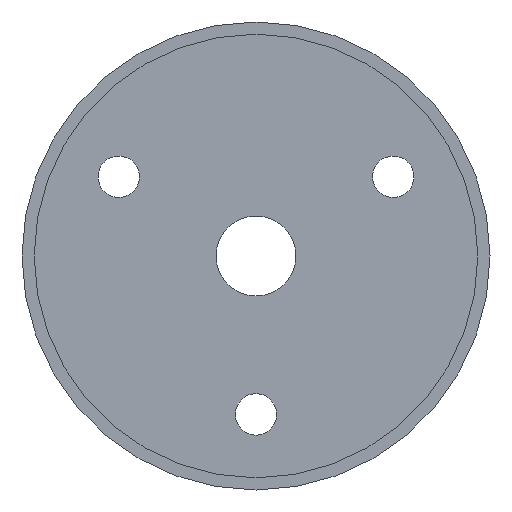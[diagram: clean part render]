
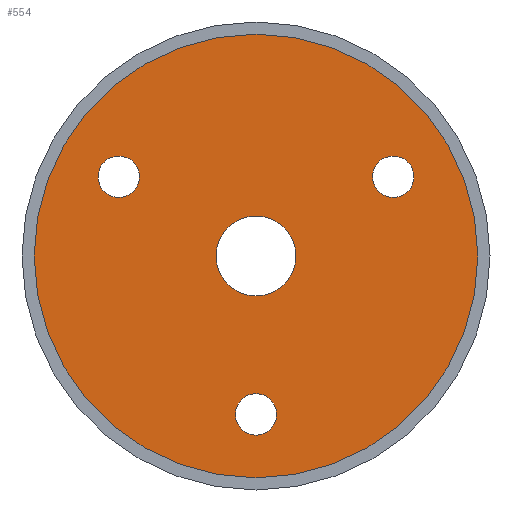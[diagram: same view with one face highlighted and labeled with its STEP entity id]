
A CAD part, left-side view. The second image highlights one B-rep face of the part: STEP entity #554.
In plain terms, the highlighted planar face has unit normal (-1, 0, 0).
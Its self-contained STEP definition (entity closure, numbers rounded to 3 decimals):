
#129 = CYLINDRICAL_SURFACE('',#130,18.2);
#130 = AXIS2_PLACEMENT_3D('',#131,#132,#133);
#131 = CARTESIAN_POINT('',(33.5,30.,33.));
#132 = DIRECTION('',(-1.,-0.,0.));
#133 = DIRECTION('',(0.,0.,-1.));
#203 = CYLINDRICAL_SURFACE('',#204,3.275);
#204 = AXIS2_PLACEMENT_3D('',#205,#206,#207);
#205 = CARTESIAN_POINT('',(36.5,30.,33.));
#206 = DIRECTION('',(-1.,-0.,0.));
#207 = DIRECTION('',(0.,0.,-1.));
#289 = VERTEX_POINT('',#290);
#290 = CARTESIAN_POINT('',(36.5,30.,14.8));
#311 = EDGE_CURVE('',#289,#289,#312,.T.);
#312 = SURFACE_CURVE('',#313,(#318,#325),.PCURVE_S1.);
#313 = CIRCLE('',#314,18.2);
#314 = AXIS2_PLACEMENT_3D('',#315,#316,#317);
#315 = CARTESIAN_POINT('',(36.5,30.,33.));
#316 = DIRECTION('',(1.,-0.,0.));
#317 = DIRECTION('',(0.,0.,-1.));
#318 = PCURVE('',#129,#319);
#319 = DEFINITIONAL_REPRESENTATION('',(#320),#324);
#320 = LINE('',#321,#322);
#321 = CARTESIAN_POINT('',(-0.,-3.));
#322 = VECTOR('',#323,1.);
#323 = DIRECTION('',(-1.,0.));
#324 = ( GEOMETRIC_REPRESENTATION_CONTEXT(2) 
PARAMETRIC_REPRESENTATION_CONTEXT() REPRESENTATION_CONTEXT('2D SPACE',''
  ) );
#325 = PCURVE('',#326,#331);
#326 = PLANE('',#327);
#327 = AXIS2_PLACEMENT_3D('',#328,#329,#330);
#328 = CARTESIAN_POINT('',(36.5,30.,33.));
#329 = DIRECTION('',(1.,0.,0.));
#330 = DIRECTION('',(0.,0.,-1.));
#331 = DEFINITIONAL_REPRESENTATION('',(#332),#336);
#332 = CIRCLE('',#333,18.2);
#333 = AXIS2_PLACEMENT_2D('',#334,#335);
#334 = CARTESIAN_POINT('',(0.,0.));
#335 = DIRECTION('',(1.,0.));
#336 = ( GEOMETRIC_REPRESENTATION_CONTEXT(2) 
PARAMETRIC_REPRESENTATION_CONTEXT() REPRESENTATION_CONTEXT('2D SPACE',''
  ) );
#398 = EDGE_CURVE('',#399,#399,#401,.T.);
#399 = VERTEX_POINT('',#400);
#400 = CARTESIAN_POINT('',(36.5,30.,29.725));
#401 = SURFACE_CURVE('',#402,(#407,#414),.PCURVE_S1.);
#402 = CIRCLE('',#403,3.275);
#403 = AXIS2_PLACEMENT_3D('',#404,#405,#406);
#404 = CARTESIAN_POINT('',(36.5,30.,33.));
#405 = DIRECTION('',(1.,-0.,0.));
#406 = DIRECTION('',(0.,0.,-1.));
#407 = PCURVE('',#203,#408);
#408 = DEFINITIONAL_REPRESENTATION('',(#409),#413);
#409 = LINE('',#410,#411);
#410 = CARTESIAN_POINT('',(-0.,0.));
#411 = VECTOR('',#412,1.);
#412 = DIRECTION('',(-1.,0.));
#413 = ( GEOMETRIC_REPRESENTATION_CONTEXT(2) 
PARAMETRIC_REPRESENTATION_CONTEXT() REPRESENTATION_CONTEXT('2D SPACE',''
  ) );
#414 = PCURVE('',#326,#415);
#415 = DEFINITIONAL_REPRESENTATION('',(#416),#420);
#416 = CIRCLE('',#417,3.275);
#417 = AXIS2_PLACEMENT_2D('',#418,#419);
#418 = CARTESIAN_POINT('',(0.,0.));
#419 = DIRECTION('',(1.,0.));
#420 = ( GEOMETRIC_REPRESENTATION_CONTEXT(2) 
PARAMETRIC_REPRESENTATION_CONTEXT() REPRESENTATION_CONTEXT('2D SPACE',''
  ) );
#554 = ADVANCED_FACE('',(#555,#558,#589,#592,#623),#326,.F.);
#555 = FACE_BOUND('',#556,.F.);
#556 = EDGE_LOOP('',(#557));
#557 = ORIENTED_EDGE('',*,*,#311,.T.);
#558 = FACE_BOUND('',#559,.F.);
#559 = EDGE_LOOP('',(#560));
#560 = ORIENTED_EDGE('',*,*,#561,.F.);
#561 = EDGE_CURVE('',#562,#562,#564,.T.);
#562 = VERTEX_POINT('',#563);
#563 = CARTESIAN_POINT('',(36.5,18.742,37.8));
#564 = SURFACE_CURVE('',#565,(#570,#577),.PCURVE_S1.);
#565 = CIRCLE('',#566,1.7);
#566 = AXIS2_PLACEMENT_3D('',#567,#568,#569);
#567 = CARTESIAN_POINT('',(36.5,18.742,39.5));
#568 = DIRECTION('',(1.,-0.,0.));
#569 = DIRECTION('',(0.,0.,-1.));
#570 = PCURVE('',#326,#571);
#571 = DEFINITIONAL_REPRESENTATION('',(#572),#576);
#572 = CIRCLE('',#573,1.7);
#573 = AXIS2_PLACEMENT_2D('',#574,#575);
#574 = CARTESIAN_POINT('',(-6.5,-11.258));
#575 = DIRECTION('',(1.,0.));
#576 = ( GEOMETRIC_REPRESENTATION_CONTEXT(2) 
PARAMETRIC_REPRESENTATION_CONTEXT() REPRESENTATION_CONTEXT('2D SPACE',''
  ) );
#577 = PCURVE('',#578,#583);
#578 = CYLINDRICAL_SURFACE('',#579,1.7);
#579 = AXIS2_PLACEMENT_3D('',#580,#581,#582);
#580 = CARTESIAN_POINT('',(36.5,18.742,39.5));
#581 = DIRECTION('',(-1.,-0.,0.));
#582 = DIRECTION('',(0.,0.,-1.));
#583 = DEFINITIONAL_REPRESENTATION('',(#584),#588);
#584 = LINE('',#585,#586);
#585 = CARTESIAN_POINT('',(-0.,0.));
#586 = VECTOR('',#587,1.);
#587 = DIRECTION('',(-1.,0.));
#588 = ( GEOMETRIC_REPRESENTATION_CONTEXT(2) 
PARAMETRIC_REPRESENTATION_CONTEXT() REPRESENTATION_CONTEXT('2D SPACE',''
  ) );
#589 = FACE_BOUND('',#590,.F.);
#590 = EDGE_LOOP('',(#591));
#591 = ORIENTED_EDGE('',*,*,#398,.F.);
#592 = FACE_BOUND('',#593,.F.);
#593 = EDGE_LOOP('',(#594));
#594 = ORIENTED_EDGE('',*,*,#595,.F.);
#595 = EDGE_CURVE('',#596,#596,#598,.T.);
#596 = VERTEX_POINT('',#597);
#597 = CARTESIAN_POINT('',(36.5,30.,18.3));
#598 = SURFACE_CURVE('',#599,(#604,#611),.PCURVE_S1.);
#599 = CIRCLE('',#600,1.7);
#600 = AXIS2_PLACEMENT_3D('',#601,#602,#603);
#601 = CARTESIAN_POINT('',(36.5,30.,20.));
#602 = DIRECTION('',(1.,-0.,0.));
#603 = DIRECTION('',(0.,0.,-1.));
#604 = PCURVE('',#326,#605);
#605 = DEFINITIONAL_REPRESENTATION('',(#606),#610);
#606 = CIRCLE('',#607,1.7);
#607 = AXIS2_PLACEMENT_2D('',#608,#609);
#608 = CARTESIAN_POINT('',(13.,0.));
#609 = DIRECTION('',(1.,0.));
#610 = ( GEOMETRIC_REPRESENTATION_CONTEXT(2) 
PARAMETRIC_REPRESENTATION_CONTEXT() REPRESENTATION_CONTEXT('2D SPACE',''
  ) );
#611 = PCURVE('',#612,#617);
#612 = CYLINDRICAL_SURFACE('',#613,1.7);
#613 = AXIS2_PLACEMENT_3D('',#614,#615,#616);
#614 = CARTESIAN_POINT('',(36.5,30.,20.));
#615 = DIRECTION('',(-1.,-0.,0.));
#616 = DIRECTION('',(0.,0.,-1.));
#617 = DEFINITIONAL_REPRESENTATION('',(#618),#622);
#618 = LINE('',#619,#620);
#619 = CARTESIAN_POINT('',(-0.,0.));
#620 = VECTOR('',#621,1.);
#621 = DIRECTION('',(-1.,0.));
#622 = ( GEOMETRIC_REPRESENTATION_CONTEXT(2) 
PARAMETRIC_REPRESENTATION_CONTEXT() REPRESENTATION_CONTEXT('2D SPACE',''
  ) );
#623 = FACE_BOUND('',#624,.F.);
#624 = EDGE_LOOP('',(#625));
#625 = ORIENTED_EDGE('',*,*,#626,.F.);
#626 = EDGE_CURVE('',#627,#627,#629,.T.);
#627 = VERTEX_POINT('',#628);
#628 = CARTESIAN_POINT('',(36.5,41.258,37.8));
#629 = SURFACE_CURVE('',#630,(#635,#642),.PCURVE_S1.);
#630 = CIRCLE('',#631,1.7);
#631 = AXIS2_PLACEMENT_3D('',#632,#633,#634);
#632 = CARTESIAN_POINT('',(36.5,41.258,39.5));
#633 = DIRECTION('',(1.,-0.,0.));
#634 = DIRECTION('',(0.,0.,-1.));
#635 = PCURVE('',#326,#636);
#636 = DEFINITIONAL_REPRESENTATION('',(#637),#641);
#637 = CIRCLE('',#638,1.7);
#638 = AXIS2_PLACEMENT_2D('',#639,#640);
#639 = CARTESIAN_POINT('',(-6.5,11.258));
#640 = DIRECTION('',(1.,0.));
#641 = ( GEOMETRIC_REPRESENTATION_CONTEXT(2) 
PARAMETRIC_REPRESENTATION_CONTEXT() REPRESENTATION_CONTEXT('2D SPACE',''
  ) );
#642 = PCURVE('',#643,#648);
#643 = CYLINDRICAL_SURFACE('',#644,1.7);
#644 = AXIS2_PLACEMENT_3D('',#645,#646,#647);
#645 = CARTESIAN_POINT('',(36.5,41.258,39.5));
#646 = DIRECTION('',(-1.,-0.,0.));
#647 = DIRECTION('',(0.,0.,-1.));
#648 = DEFINITIONAL_REPRESENTATION('',(#649),#653);
#649 = LINE('',#650,#651);
#650 = CARTESIAN_POINT('',(-0.,0.));
#651 = VECTOR('',#652,1.);
#652 = DIRECTION('',(-1.,0.));
#653 = ( GEOMETRIC_REPRESENTATION_CONTEXT(2) 
PARAMETRIC_REPRESENTATION_CONTEXT() REPRESENTATION_CONTEXT('2D SPACE',''
  ) );
